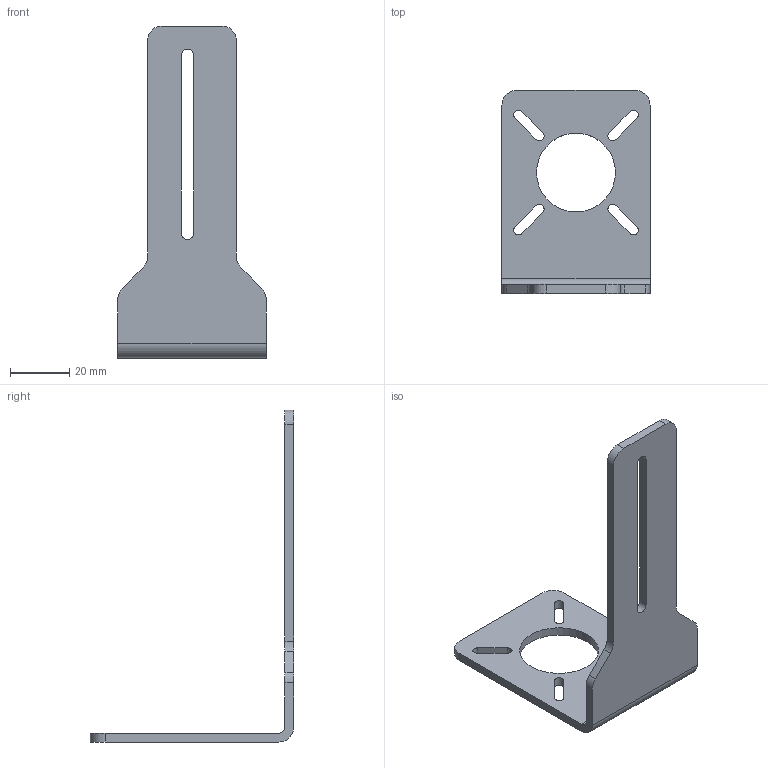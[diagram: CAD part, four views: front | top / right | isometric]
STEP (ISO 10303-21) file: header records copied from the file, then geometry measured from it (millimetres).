
FILE_DESCRIPTION(/* description */ (''),/* implementation_level */ '2;1');
FILE_NAME(/* name */ 'C:\#Vault-WorkDir\Konstruktions-Dokumente\Projekte\FA45\153-00722_MA LR-26_112 FA 45 Haltewinkel Beleuchtung.stp',/* time_stamp */ '2018-05-02T08:41:31+02:00',/* author */ ('SensoPart'),/* organization */ ('SensoPart'),/* preprocessor_version */ 'ST-DEVELOPER v17',/* originating_system */ 'Autodesk Inventor 2018',/* authorisation */ '');
FILE_SCHEMA (('AUTOMOTIVE_DESIGN { 1 0 10303 214 3 1 1 }'));
Length unit declared in the file: millimetre
Products named in the file (1): 04113227 TEIL1
Bounding box: 50 x 68.6 x 112 mm (x, y, z)
Volume: 18305.1 mm3; surface area: 14507.4 mm2
Topology: 1 solids, 1 shells, 43 faces, 123 edges, 82 vertices
Faces by surface type: plane 22, cylinder 21
Full cylindrical faces by diameter (mm): 26.6 x1
Entity records: 1482 total; most frequent: DIRECTION 253, CARTESIAN_POINT 249, ORIENTED_EDGE 246, EDGE_CURVE 123, AXIS2_PLACEMENT_3D 86, VERTEX_POINT 82, LINE 81, VECTOR 81
